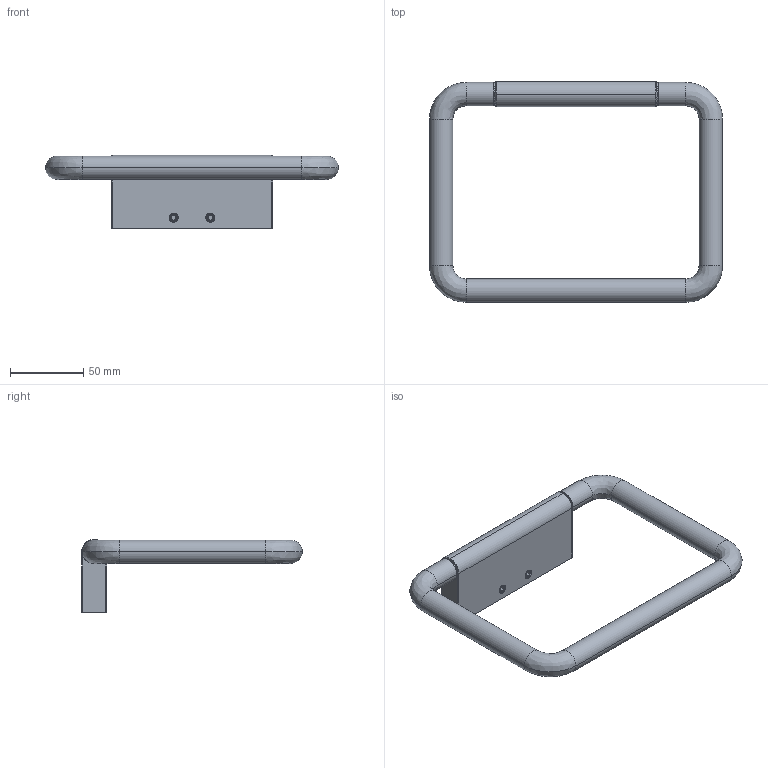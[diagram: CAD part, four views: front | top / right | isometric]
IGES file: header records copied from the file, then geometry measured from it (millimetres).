
Start section: SolidWorks IGES file using analytic representation for surfaces
Global section: file name: G:\Projects\New project\For Marketing\IGS\IGS\2015-10-22\2510171VW.IGS; native system: SolidWorks 2010; preprocessor: SolidWorks 2010; author: linda; date: 151013.133932; units: millimetre
Bounding box: 200 x 150.5 x 50 mm (x, y, z)
Surface area: 49560.9 mm2 (no closed solid volume)
Topology: 0 solids, 0 shells, 111 faces, 1088 edges, 1088 vertices
Faces by surface type: revolution 60, bspline 51
